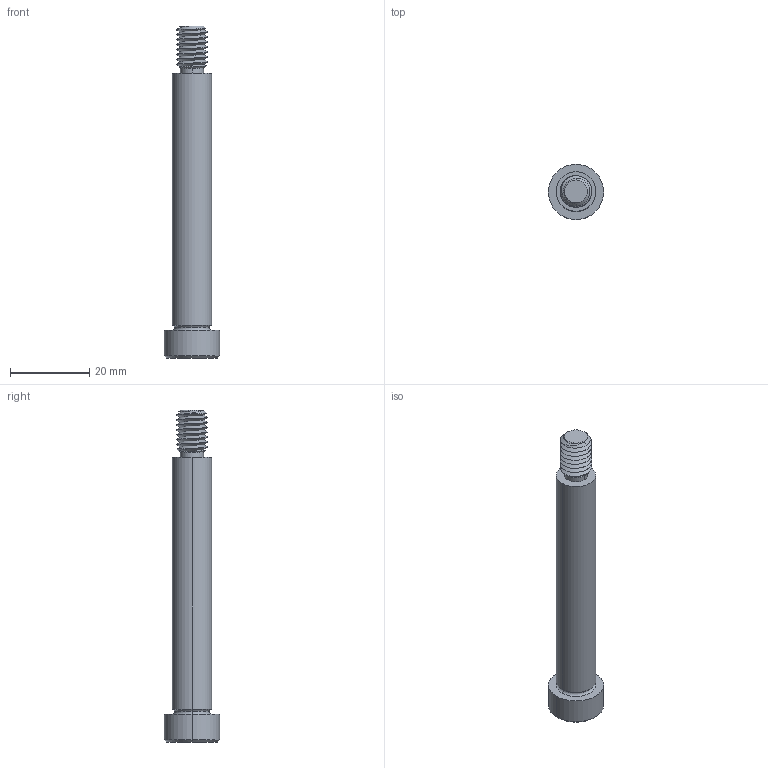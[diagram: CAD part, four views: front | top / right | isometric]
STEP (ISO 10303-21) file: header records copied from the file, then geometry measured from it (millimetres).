
FILE_DESCRIPTION (( 'STEP AP203' ), '1' );
FILE_NAME ('P0130.100-065-B8.step', '2021-11-09T21:57:52', ( '' ), ( '' ), 'SwSTEP 2.0', 'SolidWorks 2019', '' );
FILE_SCHEMA (( 'CONFIG_CONTROL_DESIGN' ));
Length unit declared in the file: millimetre
Products named in the file (1): P0130.100-065-B8
Bounding box: 14 x 14 x 84 mm (x, y, z)
Volume: 6472.7 mm3; surface area: 3220 mm2
Topology: 1 solids, 1 shells, 58 faces, 136 edges, 81 vertices
Faces by surface type: cylinder 21, plane 16, cone 15, torus 4, bspline 2
Entity records: 4214 total; most frequent: CARTESIAN_POINT 2911, ORIENTED_EDGE 268, DIRECTION 241, EDGE_CURVE 134, AXIS2_PLACEMENT_3D 97, VERTEX_POINT 81, EDGE_LOOP 61, ADVANCED_FACE 58
